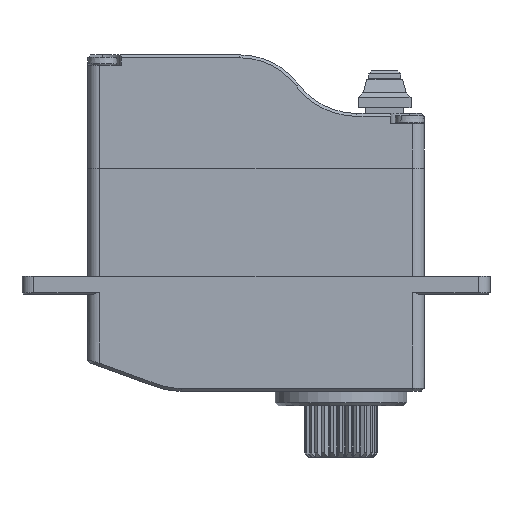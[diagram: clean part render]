
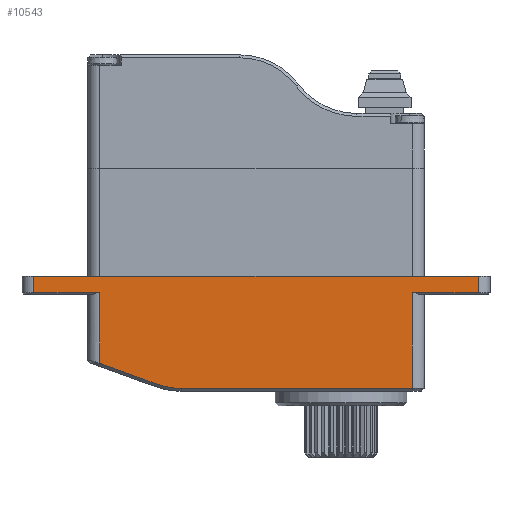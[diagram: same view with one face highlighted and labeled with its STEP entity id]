
A CAD part, front view. The second image highlights one B-rep face of the part: STEP entity #10543.
In plain terms, the highlighted planar face has unit normal (0, -1, 0).
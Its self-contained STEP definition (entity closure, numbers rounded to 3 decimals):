
#84 = ORIENTED_EDGE ( 'NONE', *, *, #17327, .T. ) ;
#244 = EDGE_CURVE ( 'NONE', #4876, #10521, #3464, .T. ) ;
#320 = CARTESIAN_POINT ( 'NONE',  ( -108.519, -16.361, -11.15 ) ) ;
#555 = CARTESIAN_POINT ( 'NONE',  ( -107.719, -16.361, -3.5 ) ) ;
#561 = DIRECTION ( 'NONE',  ( 0., 0., -1. ) ) ;
#719 = LINE ( 'NONE', #11717, #10980 ) ;
#745 = VERTEX_POINT ( 'NONE', #14922 ) ;
#842 = ORIENTED_EDGE ( 'NONE', *, *, #12824, .F. ) ;
#908 = VERTEX_POINT ( 'NONE', #5298 ) ;
#1096 = PLANE ( 'NONE',  #7122 ) ;
#1212 = VECTOR ( 'NONE', #3881, 1000. ) ;
#1218 = CARTESIAN_POINT ( 'NONE',  ( -107.719, -16.361, -3.5 ) ) ;
#1222 = FACE_OUTER_BOUND ( 'NONE', #8407, .T. ) ;
#1227 = DIRECTION ( 'NONE',  ( 0., 0., -1. ) ) ;
#1285 = DIRECTION ( 'NONE',  ( 0., -1., 0. ) ) ;
#1425 = CARTESIAN_POINT ( 'NONE',  ( -134.419, -16.361, -4.6 ) ) ;
#1440 = LINE ( 'NONE', #11391, #1907 ) ;
#1596 = VECTOR ( 'NONE', #7007, 1000. ) ;
#1689 = ORIENTED_EDGE ( 'NONE', *, *, #5753, .F. ) ;
#1692 = VERTEX_POINT ( 'NONE', #13989 ) ;
#1907 = VECTOR ( 'NONE', #2881, 1000. ) ;
#2033 = EDGE_CURVE ( 'NONE', #908, #1692, #9334, .T. ) ;
#2881 = DIRECTION ( 'NONE',  ( 0.94, 0., -0.342 ) ) ;
#3025 = ORIENTED_EDGE ( 'NONE', *, *, #10833, .T. ) ;
#3445 = LINE ( 'NONE', #5989, #6103 ) ;
#3464 = CIRCLE ( 'NONE', #10614, 4.8 ) ;
#3561 = ORIENTED_EDGE ( 'NONE', *, *, #244, .T. ) ;
#3881 = DIRECTION ( 'NONE',  ( 0., 0., 1. ) ) ;
#4247 = VECTOR ( 'NONE', #6297, 1000. ) ;
#4460 = VERTEX_POINT ( 'NONE', #1425 ) ;
#4637 = DIRECTION ( 'NONE',  ( 0., 0., 1. ) ) ;
#4835 = ORIENTED_EDGE ( 'NONE', *, *, #2033, .T. ) ;
#4876 = VERTEX_POINT ( 'NONE', #13907 ) ;
#5105 = CARTESIAN_POINT ( 'NONE',  ( -129.919, -16.361, -9.428 ) ) ;
#5258 = LINE ( 'NONE', #12400, #1212 ) ;
#5274 = VERTEX_POINT ( 'NONE', #5105 ) ;
#5298 = CARTESIAN_POINT ( 'NONE',  ( -108.519, -16.361, -4.6 ) ) ;
#5570 = CARTESIAN_POINT ( 'NONE',  ( -134.419, -16.361, -4.7 ) ) ;
#5753 = EDGE_CURVE ( 'NONE', #16606, #745, #10254, .T. ) ;
#5989 = CARTESIAN_POINT ( 'NONE',  ( -129.919, -16.361, -3.5 ) ) ;
#6103 = VECTOR ( 'NONE', #561, 1000. ) ;
#6195 = CARTESIAN_POINT ( 'NONE',  ( -134.419, -16.361, -3.5 ) ) ;
#6218 = VECTOR ( 'NONE', #14409, 1000. ) ;
#6297 = DIRECTION ( 'NONE',  ( 1., 0., 0. ) ) ;
#6715 = VECTOR ( 'NONE', #8786, 1000. ) ;
#6951 = DIRECTION ( 'NONE',  ( 0., 0., -1. ) ) ;
#7007 = DIRECTION ( 'NONE',  ( 1., 0., 0. ) ) ;
#7122 = AXIS2_PLACEMENT_3D ( 'NONE', #1218, #15452, #6951 ) ;
#7362 = LINE ( 'NONE', #320, #6715 ) ;
#7945 = EDGE_CURVE ( 'NONE', #4460, #15842, #15639, .T. ) ;
#7971 = EDGE_CURVE ( 'NONE', #1692, #745, #719, .T. ) ;
#8185 = ORIENTED_EDGE ( 'NONE', *, *, #16454, .T. ) ;
#8243 = CARTESIAN_POINT ( 'NONE',  ( -124.343, -16.361, -6.35 ) ) ;
#8407 = EDGE_LOOP ( 'NONE', ( #842, #17820, #3025, #9341, #3561, #8185, #84, #4835, #12680, #1689 ) ) ;
#8786 = DIRECTION ( 'NONE',  ( 1., 0., 0. ) ) ;
#8940 = VERTEX_POINT ( 'NONE', #16562 ) ;
#9334 = LINE ( 'NONE', #10331, #6218 ) ;
#9341 = ORIENTED_EDGE ( 'NONE', *, *, #17018, .T. ) ;
#9810 = CARTESIAN_POINT ( 'NONE',  ( -124.343, -16.361, -11.15 ) ) ;
#10254 = LINE ( 'NONE', #555, #4247 ) ;
#10331 = CARTESIAN_POINT ( 'NONE',  ( -104.019, -16.361, -4.6 ) ) ;
#10521 = VERTEX_POINT ( 'NONE', #9810 ) ;
#10543 = ADVANCED_FACE ( 'NONE', ( #1222 ), #1096, .F. ) ;
#10614 = AXIS2_PLACEMENT_3D ( 'NONE', #8243, #1285, #1227 ) ;
#10828 = LINE ( 'NONE', #5570, #15706 ) ;
#10833 = EDGE_CURVE ( 'NONE', #15842, #5274, #3445, .T. ) ;
#10980 = VECTOR ( 'NONE', #4637, 1000. ) ;
#11391 = CARTESIAN_POINT ( 'NONE',  ( -125.984, -16.361, -10.861 ) ) ;
#11717 = CARTESIAN_POINT ( 'NONE',  ( -104.019, -16.361, -4.7 ) ) ;
#12400 = CARTESIAN_POINT ( 'NONE',  ( -108.519, -16.361, -3.5 ) ) ;
#12663 = DIRECTION ( 'NONE',  ( 0., 0., 1. ) ) ;
#12680 = ORIENTED_EDGE ( 'NONE', *, *, #7971, .T. ) ;
#12824 = EDGE_CURVE ( 'NONE', #4460, #16606, #10828, .T. ) ;
#13907 = CARTESIAN_POINT ( 'NONE',  ( -125.984, -16.361, -10.861 ) ) ;
#13989 = CARTESIAN_POINT ( 'NONE',  ( -104.019, -16.361, -4.6 ) ) ;
#14409 = DIRECTION ( 'NONE',  ( 1., 0., 0. ) ) ;
#14922 = CARTESIAN_POINT ( 'NONE',  ( -104.019, -16.361, -3.5 ) ) ;
#15452 = DIRECTION ( 'NONE',  ( 0., 1., 0. ) ) ;
#15507 = CARTESIAN_POINT ( 'NONE',  ( -107.719, -16.361, -4.6 ) ) ;
#15639 = LINE ( 'NONE', #15507, #1596 ) ;
#15706 = VECTOR ( 'NONE', #12663, 1000. ) ;
#15772 = CARTESIAN_POINT ( 'NONE',  ( -129.919, -16.361, -4.6 ) ) ;
#15842 = VERTEX_POINT ( 'NONE', #15772 ) ;
#16454 = EDGE_CURVE ( 'NONE', #10521, #8940, #7362, .T. ) ;
#16562 = CARTESIAN_POINT ( 'NONE',  ( -108.519, -16.361, -11.15 ) ) ;
#16606 = VERTEX_POINT ( 'NONE', #6195 ) ;
#17018 = EDGE_CURVE ( 'NONE', #5274, #4876, #1440, .T. ) ;
#17327 = EDGE_CURVE ( 'NONE', #8940, #908, #5258, .T. ) ;
#17820 = ORIENTED_EDGE ( 'NONE', *, *, #7945, .T. ) ;
